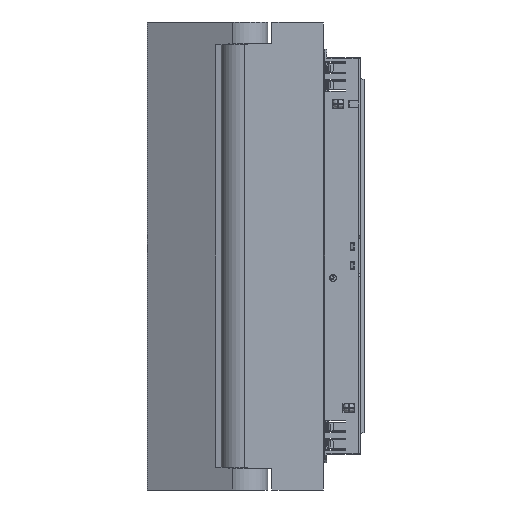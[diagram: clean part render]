
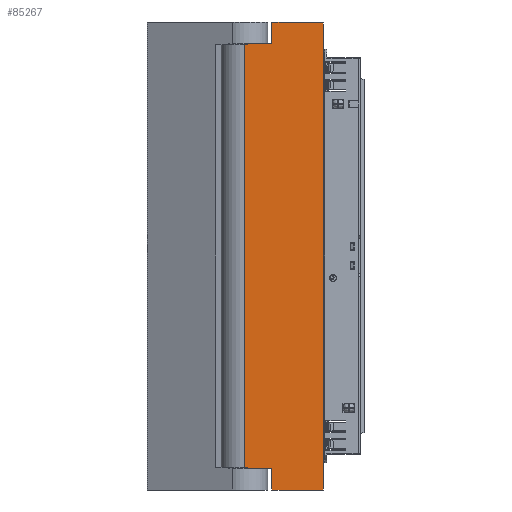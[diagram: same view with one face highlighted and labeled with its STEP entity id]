
A CAD part, left-side view. The second image highlights one B-rep face of the part: STEP entity #85267.
In plain terms, the highlighted planar face has unit normal (-1, 0, 0).
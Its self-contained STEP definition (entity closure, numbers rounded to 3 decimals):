
#3921 = CARTESIAN_POINT ( 'NONE',  ( -11., -18.5, -109. ) ) ;
#7538 = DIRECTION ( 'NONE',  ( 0., 1., 0. ) ) ;
#8436 = DIRECTION ( 'NONE',  ( 0., -1., 0. ) ) ;
#11190 = LINE ( 'NONE', #38086, #11816 ) ;
#11816 = VECTOR ( 'NONE', #65030, 1000. ) ;
#12996 = ORIENTED_EDGE ( 'NONE', *, *, #34868, .T. ) ;
#13299 = ORIENTED_EDGE ( 'NONE', *, *, #60636, .T. ) ;
#13595 = VERTEX_POINT ( 'NONE', #70846 ) ;
#14519 = CARTESIAN_POINT ( 'NONE',  ( -11., -18.5, -109. ) ) ;
#16297 = EDGE_LOOP ( 'NONE', ( #44347, #63928, #71223, #13299, #27180, #24460, #12996, #51485 ) ) ;
#16617 = CARTESIAN_POINT ( 'NONE',  ( -11., 18.5, -99. ) ) ;
#19632 = CARTESIAN_POINT ( 'NONE',  ( -11., 18.5, 99. ) ) ;
#20456 = VERTEX_POINT ( 'NONE', #27048 ) ;
#21294 = EDGE_CURVE ( 'NONE', #32406, #20456, #11190, .T. ) ;
#24363 = DIRECTION ( 'NONE',  ( -1., 0., 0. ) ) ;
#24460 = ORIENTED_EDGE ( 'NONE', *, *, #48290, .T. ) ;
#24760 = AXIS2_PLACEMENT_3D ( 'NONE', #84817, #24363, #51304 ) ;
#25011 = LINE ( 'NONE', #51944, #62475 ) ;
#25882 = CARTESIAN_POINT ( 'NONE',  ( -11., 5.5, -109. ) ) ;
#27048 = CARTESIAN_POINT ( 'NONE',  ( -11., 18.5, -99. ) ) ;
#27180 = ORIENTED_EDGE ( 'NONE', *, *, #64920, .T. ) ;
#28225 = VERTEX_POINT ( 'NONE', #74374 ) ;
#30522 = VECTOR ( 'NONE', #46549, 1000. ) ;
#30835 = DIRECTION ( 'NONE',  ( 0., 0., 1. ) ) ;
#31016 = FACE_OUTER_BOUND ( 'NONE', #16297, .T. ) ;
#32406 = VERTEX_POINT ( 'NONE', #40867 ) ;
#33473 = EDGE_CURVE ( 'NONE', #64037, #58981, #86331, .T. ) ;
#33710 = VECTOR ( 'NONE', #7538, 1000. ) ;
#34868 = EDGE_CURVE ( 'NONE', #28225, #13595, #25011, .T. ) ;
#36208 = VERTEX_POINT ( 'NONE', #76763 ) ;
#38086 = CARTESIAN_POINT ( 'NONE',  ( -11., 18.5, -109. ) ) ;
#40867 = CARTESIAN_POINT ( 'NONE',  ( -11., 18.5, 99. ) ) ;
#41066 = LINE ( 'NONE', #67996, #33710 ) ;
#41951 = LINE ( 'NONE', #68885, #75281 ) ;
#43519 = DIRECTION ( 'NONE',  ( 0., -1., 0. ) ) ;
#44347 = ORIENTED_EDGE ( 'NONE', *, *, #21294, .T. ) ;
#46549 = DIRECTION ( 'NONE',  ( 0., 1., 0. ) ) ;
#48290 = EDGE_CURVE ( 'NONE', #36208, #28225, #41066, .T. ) ;
#51304 = DIRECTION ( 'NONE',  ( 0., 0., 1. ) ) ;
#51485 = ORIENTED_EDGE ( 'NONE', *, *, #86232, .T. ) ;
#51944 = CARTESIAN_POINT ( 'NONE',  ( -11., 5.5, -109. ) ) ;
#52826 = DIRECTION ( 'NONE',  ( 0., 0., -1. ) ) ;
#57941 = PLANE ( 'NONE',  #24760 ) ;
#58981 = VERTEX_POINT ( 'NONE', #60203 ) ;
#60203 = CARTESIAN_POINT ( 'NONE',  ( -11., 5.5, -109. ) ) ;
#60636 = EDGE_CURVE ( 'NONE', #58981, #69974, #41951, .T. ) ;
#62475 = VECTOR ( 'NONE', #78866, 1000. ) ;
#62633 = CARTESIAN_POINT ( 'NONE',  ( -11., 5.5, -99. ) ) ;
#63928 = ORIENTED_EDGE ( 'NONE', *, *, #72862, .T. ) ;
#64037 = VERTEX_POINT ( 'NONE', #62633 ) ;
#64385 = LINE ( 'NONE', #3921, #80879 ) ;
#64920 = EDGE_CURVE ( 'NONE', #69974, #36208, #64385, .T. ) ;
#65030 = DIRECTION ( 'NONE',  ( 0., 0., -1. ) ) ;
#67996 = CARTESIAN_POINT ( 'NONE',  ( -11., 18.5, 109. ) ) ;
#68885 = CARTESIAN_POINT ( 'NONE',  ( -11., 18.5, -109. ) ) ;
#69974 = VERTEX_POINT ( 'NONE', #14519 ) ;
#70846 = CARTESIAN_POINT ( 'NONE',  ( -11., 5.5, 99. ) ) ;
#71223 = ORIENTED_EDGE ( 'NONE', *, *, #33473, .T. ) ;
#72862 = EDGE_CURVE ( 'NONE', #20456, #64037, #77072, .T. ) ;
#73514 = VECTOR ( 'NONE', #43519, 1000. ) ;
#74374 = CARTESIAN_POINT ( 'NONE',  ( -11., 5.5, 109. ) ) ;
#75281 = VECTOR ( 'NONE', #8436, 1000. ) ;
#76668 = VECTOR ( 'NONE', #52826, 1000. ) ;
#76763 = CARTESIAN_POINT ( 'NONE',  ( -11., -18.5, 109. ) ) ;
#77072 = LINE ( 'NONE', #16617, #73514 ) ;
#78866 = DIRECTION ( 'NONE',  ( 0., 0., -1. ) ) ;
#80091 = LINE ( 'NONE', #19632, #30522 ) ;
#80879 = VECTOR ( 'NONE', #30835, 1000. ) ;
#84817 = CARTESIAN_POINT ( 'NONE',  ( -11., 18.5, -109. ) ) ;
#85267 = ADVANCED_FACE ( 'NONE', ( #31016 ), #57941, .T. ) ;
#86232 = EDGE_CURVE ( 'NONE', #13595, #32406, #80091, .T. ) ;
#86331 = LINE ( 'NONE', #25882, #76668 ) ;
